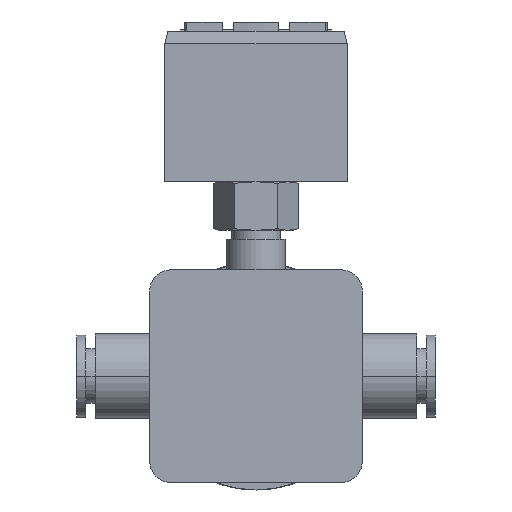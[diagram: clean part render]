
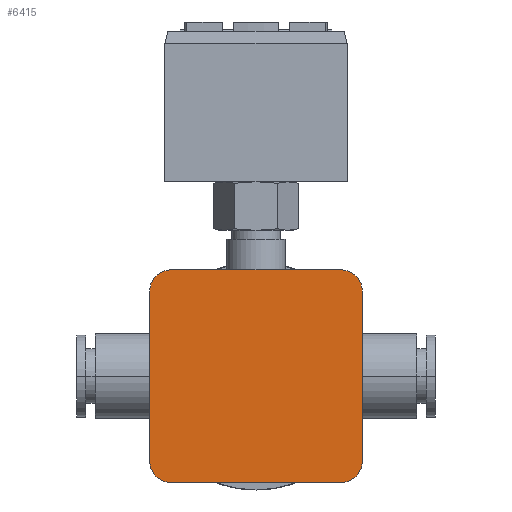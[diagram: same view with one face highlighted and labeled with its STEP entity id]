
A CAD part, front view. The second image highlights one B-rep face of the part: STEP entity #6415.
In plain terms, the highlighted planar face has unit normal (0, -1, 0).
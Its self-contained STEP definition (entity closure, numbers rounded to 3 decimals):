
#63 = EDGE_CURVE ( 'NONE', #891, #3406, #5614, .T. ) ;
#242 = EDGE_CURVE ( 'NONE', #8706, #932, #6856, .T. ) ;
#338 = ORIENTED_EDGE ( 'NONE', *, *, #1963, .F. ) ;
#378 = CIRCLE ( 'NONE', #8441, 3.5 ) ;
#784 = CARTESIAN_POINT ( 'NONE',  ( -14., -21., -14. ) ) ;
#874 = FACE_OUTER_BOUND ( 'NONE', #6498, .T. ) ;
#891 = VERTEX_POINT ( 'NONE', #9988 ) ;
#906 = ORIENTED_EDGE ( 'NONE', *, *, #5044, .F. ) ;
#932 = VERTEX_POINT ( 'NONE', #8221 ) ;
#969 = CARTESIAN_POINT ( 'NONE',  ( -14., -21., 17.5 ) ) ;
#1297 = ORIENTED_EDGE ( 'NONE', *, *, #3959, .F. ) ;
#1564 = CARTESIAN_POINT ( 'NONE',  ( 14., -21., -17.5 ) ) ;
#1910 = LINE ( 'NONE', #969, #6200 ) ;
#1963 = EDGE_CURVE ( 'NONE', #5949, #8706, #3535, .T. ) ;
#2323 = DIRECTION ( 'NONE',  ( 1., 0., 0. ) ) ;
#2530 = CARTESIAN_POINT ( 'NONE',  ( 14., -21., 17.5 ) ) ;
#2629 = DIRECTION ( 'NONE',  ( 0., 1., 0. ) ) ;
#2668 = CARTESIAN_POINT ( 'NONE',  ( -14., -21., 14. ) ) ;
#2687 = EDGE_CURVE ( 'NONE', #11425, #891, #7278, .T. ) ;
#2799 = CARTESIAN_POINT ( 'NONE',  ( -14., -21., -14. ) ) ;
#3172 = CARTESIAN_POINT ( 'NONE',  ( -17.5, -21., -14. ) ) ;
#3213 = CARTESIAN_POINT ( 'NONE',  ( -14., -21., 17.5 ) ) ;
#3383 = VECTOR ( 'NONE', #11249, 1000. ) ;
#3406 = VERTEX_POINT ( 'NONE', #4059 ) ;
#3481 = DIRECTION ( 'NONE',  ( 1., 0., 0. ) ) ;
#3484 = DIRECTION ( 'NONE',  ( 1., 0., 0. ) ) ;
#3535 = CIRCLE ( 'NONE', #5611, 3.5 ) ;
#3602 = DIRECTION ( 'NONE',  ( 0., 1., 0. ) ) ;
#3826 = VERTEX_POINT ( 'NONE', #1564 ) ;
#3959 = EDGE_CURVE ( 'NONE', #932, #6304, #11566, .T. ) ;
#4059 = CARTESIAN_POINT ( 'NONE',  ( 17.5, -21., -14. ) ) ;
#4082 = VECTOR ( 'NONE', #10015, 1000. ) ;
#4486 = DIRECTION ( 'NONE',  ( 0., 1., 0. ) ) ;
#4553 = CARTESIAN_POINT ( 'NONE',  ( 14., -21., -14. ) ) ;
#4942 = ORIENTED_EDGE ( 'NONE', *, *, #63, .F. ) ;
#5044 = EDGE_CURVE ( 'NONE', #6304, #11425, #1910, .T. ) ;
#5122 = EDGE_CURVE ( 'NONE', #3406, #3826, #378, .T. ) ;
#5253 = DIRECTION ( 'NONE',  ( 0., 0., 1. ) ) ;
#5549 = DIRECTION ( 'NONE',  ( 1., 0., 0. ) ) ;
#5611 = AXIS2_PLACEMENT_3D ( 'NONE', #784, #11349, #7016 ) ;
#5614 = LINE ( 'NONE', #10889, #4082 ) ;
#5774 = AXIS2_PLACEMENT_3D ( 'NONE', #7674, #6809, #2323 ) ;
#5949 = VERTEX_POINT ( 'NONE', #9757 ) ;
#6112 = AXIS2_PLACEMENT_3D ( 'NONE', #2799, #2629, #7218 ) ;
#6143 = CARTESIAN_POINT ( 'NONE',  ( -17.5, -21., -14. ) ) ;
#6186 = ORIENTED_EDGE ( 'NONE', *, *, #242, .F. ) ;
#6200 = VECTOR ( 'NONE', #5549, 1000. ) ;
#6288 = PLANE ( 'NONE',  #6112 ) ;
#6304 = VERTEX_POINT ( 'NONE', #3213 ) ;
#6415 = ADVANCED_FACE ( 'NONE', ( #874 ), #6288, .F. ) ;
#6498 = EDGE_LOOP ( 'NONE', ( #338, #10129, #8477, #4942, #7562, #906, #1297, #6186 ) ) ;
#6524 = AXIS2_PLACEMENT_3D ( 'NONE', #2668, #4486, #3481 ) ;
#6809 = DIRECTION ( 'NONE',  ( 0., 1., 0. ) ) ;
#6856 = LINE ( 'NONE', #6143, #11572 ) ;
#7016 = DIRECTION ( 'NONE',  ( 1., 0., 0. ) ) ;
#7218 = DIRECTION ( 'NONE',  ( 1., 0., 0. ) ) ;
#7278 = CIRCLE ( 'NONE', #5774, 3.5 ) ;
#7562 = ORIENTED_EDGE ( 'NONE', *, *, #2687, .F. ) ;
#7674 = CARTESIAN_POINT ( 'NONE',  ( 14., -21., 14. ) ) ;
#8221 = CARTESIAN_POINT ( 'NONE',  ( -17.5, -21., 14. ) ) ;
#8441 = AXIS2_PLACEMENT_3D ( 'NONE', #4553, #3602, #3484 ) ;
#8477 = ORIENTED_EDGE ( 'NONE', *, *, #5122, .F. ) ;
#8706 = VERTEX_POINT ( 'NONE', #3172 ) ;
#9502 = CARTESIAN_POINT ( 'NONE',  ( 14., -21., -17.5 ) ) ;
#9757 = CARTESIAN_POINT ( 'NONE',  ( -14., -21., -17.5 ) ) ;
#9988 = CARTESIAN_POINT ( 'NONE',  ( 17.5, -21., 14. ) ) ;
#10015 = DIRECTION ( 'NONE',  ( 0., 0., -1. ) ) ;
#10129 = ORIENTED_EDGE ( 'NONE', *, *, #10893, .F. ) ;
#10374 = LINE ( 'NONE', #9502, #3383 ) ;
#10889 = CARTESIAN_POINT ( 'NONE',  ( 17.5, -21., 14. ) ) ;
#10893 = EDGE_CURVE ( 'NONE', #3826, #5949, #10374, .T. ) ;
#11249 = DIRECTION ( 'NONE',  ( -1., 0., 0. ) ) ;
#11349 = DIRECTION ( 'NONE',  ( 0., 1., 0. ) ) ;
#11425 = VERTEX_POINT ( 'NONE', #2530 ) ;
#11566 = CIRCLE ( 'NONE', #6524, 3.5 ) ;
#11572 = VECTOR ( 'NONE', #5253, 1000. ) ;
